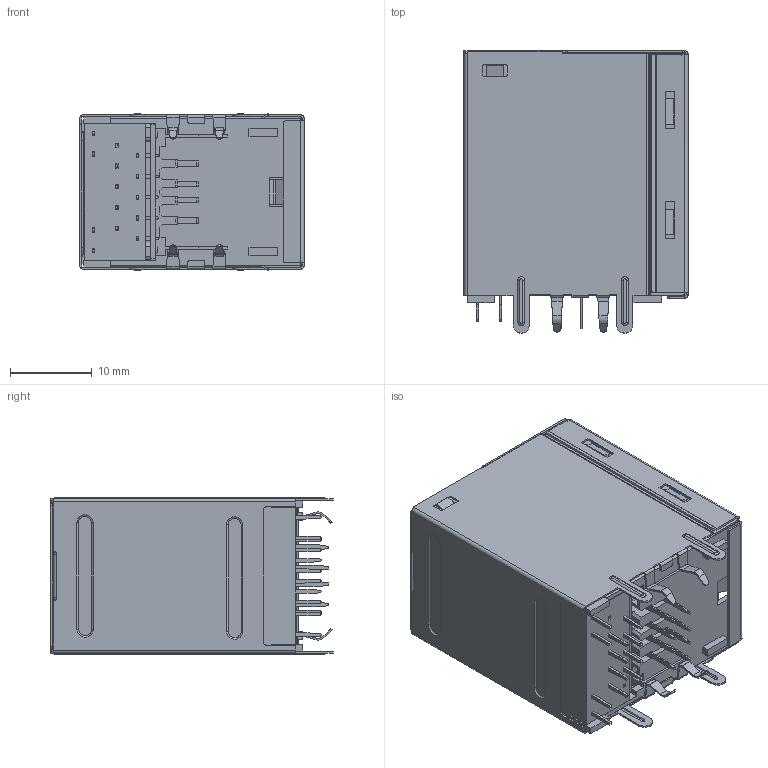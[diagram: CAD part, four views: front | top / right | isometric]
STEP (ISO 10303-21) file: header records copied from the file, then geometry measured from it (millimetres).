
FILE_DESCRIPTION((''),'2;1');
FILE_NAME('PRT0001','2024-04-25T08:47:03',('Administrator'),(''),'CREO PARAMETRIC BY PTC INC, 2019010','CREO PARAMETRIC BY PTC INC, 2019010','');
FILE_SCHEMA(('CONFIG_CONTROL_DESIGN'));
Products named in the file (1): PRT0001
Bounding box: 27.46 x 34.6 x 19.25 mm (x, y, z)
Volume: 11213 mm3; surface area: 16504.8 mm2
Topology: 1 solids, 4 shells, 3387 faces, 9974 edges, 6400 vertices
Faces by surface type: plane 2591, cylinder 711, bspline 66, torus 17, cone 2
Entity records: 115071 total; most frequent: CARTESIAN_POINT 23909, ORIENTED_EDGE 19920, DIRECTION 17896, EDGE_CURVE 9966, VECTOR 8168, LINE 8168, VERTEX_POINT 6400, AXIS2_PLACEMENT_3D 4864
